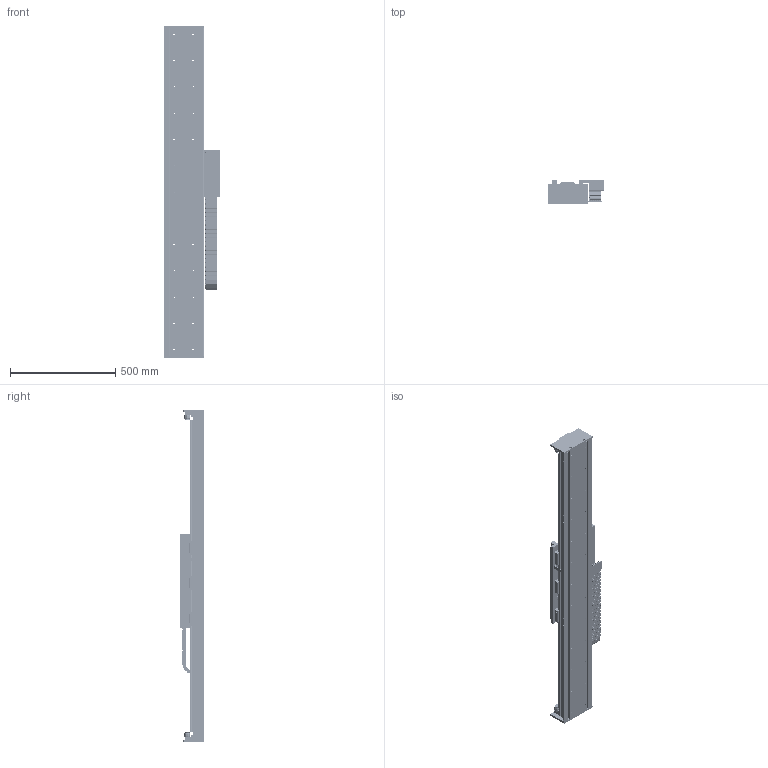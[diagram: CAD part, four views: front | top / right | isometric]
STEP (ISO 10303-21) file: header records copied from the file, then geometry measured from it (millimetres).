
FILE_DESCRIPTION (( 'STEP AP203' ), '1' );
FILE_NAME ('STF50380G-xC1B-Axx.STEP', '2007-10-29T14:57:27', ( 'Yaskawa' ), ( 'Yaskawa' ), 'SwSTEP 2.0', 'SolidWorks 2007', '' );
FILE_SCHEMA (( 'CONFIG_CONTROL_DESIGN' ));
Length unit declared in the file: millimetre
Products named in the file (60): STF50380G-xC1B-Axx; SSR20 Rail 820_1480; STF50-380 Complete Carriage; SGLFM-50405AC; SGLFM-50675AC; STF50 Large End Stop; STF50-007 End Stop; Large Bumper; STF50-001B F50-380 Carriage; SGLFW-50A380AP; SSR20W Block; STF50-003 Renishaw Encoder Bracket; RGH22B; STF50-004 Flag; STF50-0028-R1 F50-380 Carriage Horn; STF50-005-R2 Cable Router; STCM-R1; STCM-001-R2 Cable Bracket; STCM-005-R1 Cable Assembly Cover; STCM-002-R2 Cable Assembly Front; STCM-003 Cable Assembly Bottom; STCM-004 Cable Assembly Side; STCM-006-R1 Upper E-chain Bracket; Serial Converter; B18.3.1M - 5 x 0.8 x 12 Hex SHCS -- 12NHX_B18.3.1M - 5 x 0.8 x 12 Hex SHCS -- 12NHX; B18.3.1M - 6 x 1.0 x 25 Hex SHCS -- 25NHX_B18.3.1M - 6 x 1.0 x 25 Hex SHCS -- 25NHX; B18.3.5M - 3 x 0.5 x 12 Socket FCHS  -- 12N_B18.3.5M - 3 x 0.5 x 12 Socket FCHS  -- 12N; STF50-006 Endplate; STCM-007 Lower E-Chain Bracket; STF50200H; B18.3.4M - 3 x 0.5 x 12 SBHCS --N_B18.3.4M - 3 x 0.5 x 12 SBHCS --N; 07.50.038.0_20; 07.50.038.0_27; 07.50.038.0_28; 07.50.038.0_21; 07.50.038.0_22; 07.50.038.0_29; 07.50.038.0_23; 07.50.038.0_24; 07.50.038.0_25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
Assembly tree (140 placements, depth 4):
  STF50380G-xC1B-Axx
    STF50 Large End Stop  x4
      Large Bumper
      STF50-007 End Stop
    SGLFM-50405AC  x2
    SGLFM-50675AC
    STF50200H
      07.50.038.0_32  x12
      07.50.038.0_31  x10
      07.50.038.0_40
      07.50.038.0_43
      07.50.038.0_24
      07.50.038.0_23
      07.50.038.0_36
      07.50.038.0_33
      07.50.038.0_38
      07.50.038.0_21
      07.50.038.0_25
      07.50.038.0_45
      07.50.038.0_28
      07.50.038.0_20
      07.50.038.0_29
      07.50.038.0_35
      07.50.038.0_42
      07.50.038.0_41
      07.50.038.0_30
      07.50.038.0_39
      07.50.038.0_47
      07.50.038.0_27
      07.50.038.0_37
      07.50.038.0_44
      07.50.038.0_22
      07.50.038.0_26
      07.50.038.0_34
      07.50.038.0_46
    SSR20 Rail 820_1480  x2
    STF50-006 Endplate  x2
    STF50200 Base_STF50BM-008
    STCM-007 Lower E-Chain Bracket
    STF50-380 Complete Carriage
      SSR20W Block  x6
      B18.3.1M - 5 x 0.8 x 12 Hex SHCS -- 12NHX_B18.3.1M - 5 x 0.8 x 12 Hex SHCS -- 12NHX  x34
      B18.3.1M - 6 x 1.0 x 25 Hex SHCS -- 25NHX_B18.3.1M - 6 x 1.0 x 25 Hex SHCS -- 25NHX  x10
      RGH22B
      STF50-0028-R1 F50-380 Carriage Horn  x2
      STCM-R1
        STCM-004 Cable Assembly Side
        STCM-003 Cable Assembly Bottom
        Serial Converter
        STCM-005-R1 Cable Assembly Cover
        STCM-002-R2 Cable Assembly Front
        STCM-006-R1 Upper E-chain Bracket
        STCM-001-R2 Cable Bracket
      B18.3.4M - 3 x 0.5 x 12 SBHCS --N_B18.3.4M - 3 x 0.5 x 12 SBHCS --N  x3
      B18.3.5M - 3 x 0.5 x 12 Socket FCHS  -- 12N_B18.3.5M - 3 x 0.5 x 12 Socket FCHS  -- 12N  x6
      SGLFW-50A380AP
      STF50-004 Flag
      STF50-001B F50-380 Carriage
      STF50-003 Renishaw Encoder Bracket
      STF50-005-R2 Cable Router
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Bounding box: 269.74 x 115.5 x 1579.05 mm (x, y, z)
Volume: 13279487.6 mm3; surface area: 2873214.3 mm2
Topology: 185 solids, 185 shells, 7985 faces, 20371 edges, 12825 vertices
Faces by surface type: plane 4114, cylinder 2955, cone 792, torus 110, bspline 8, sphere 6
Entity records: 144654 total; most frequent: DIRECTION 24402, CARTESIAN_POINT 23620, ORIENTED_EDGE 22448, EDGE_CURVE 11224, AXIS2_PLACEMENT_3D 8636, VERTEX_POINT 7344, VECTOR 7130, LINE 7130
